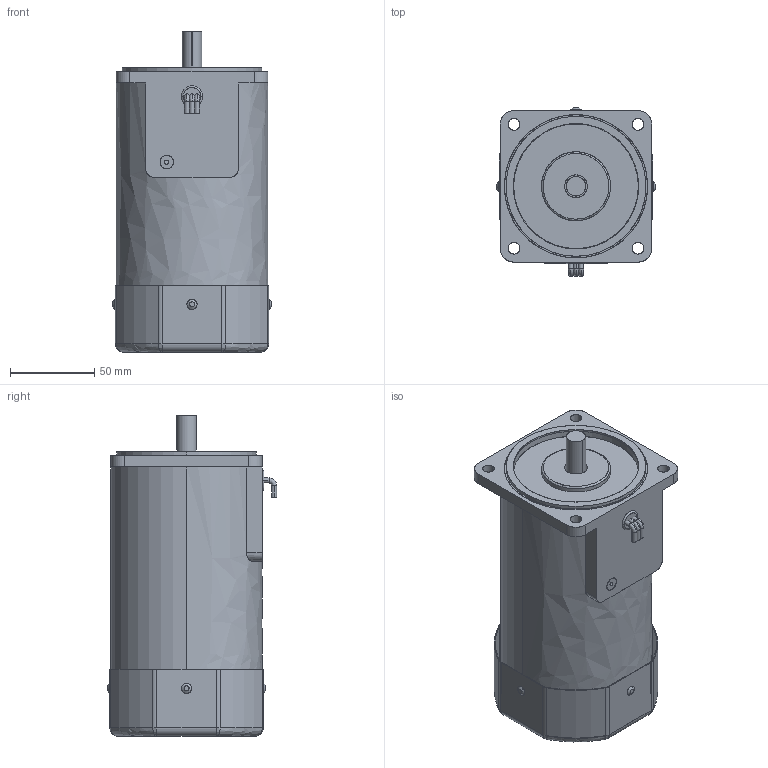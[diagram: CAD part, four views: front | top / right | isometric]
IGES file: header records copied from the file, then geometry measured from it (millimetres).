
Start section: SolidWorks IGES file using analytic representation for surfaces
Bounding box: 94 x 100.5 x 190.5 mm (x, y, z)
Surface area: 151091.8 mm2 (no closed solid volume)
Topology: 0 solids, 0 shells, 210 faces, 3788 edges, 3772 vertices
Faces by surface type: revolution 108, bspline 102
